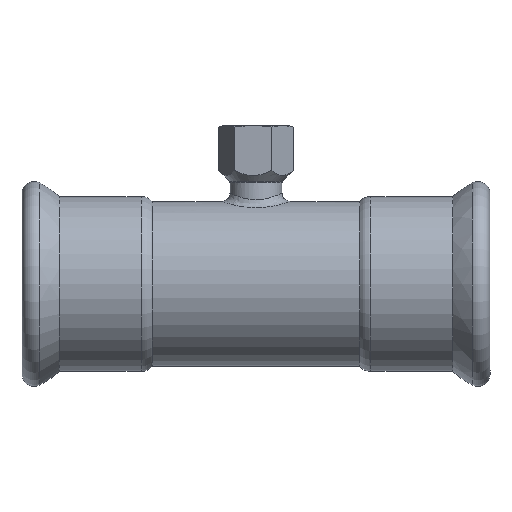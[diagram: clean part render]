
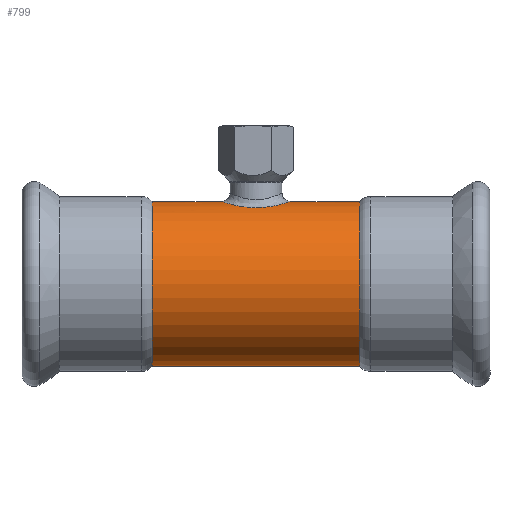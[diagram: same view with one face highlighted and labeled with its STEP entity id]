
A CAD part, front view. The second image highlights one B-rep face of the part: STEP entity #799.
In plain terms, the highlighted cylindrical face has radius 38.05 mm (diameter 76.1 mm), a full revolution.
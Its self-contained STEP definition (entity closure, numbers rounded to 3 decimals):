
#16=B_SPLINE_CURVE_WITH_KNOTS($,3,(#1725,#1726,#1727,#1728,#1729,#1730,
#1731,#1732,#1733,#1734,#1735,#1736,#1737,#1738,#1739,#1740,#1741,#1742,
#1743,#1744,#1745,#1746,#1747),.UNSPECIFIED.,.T.,.F.,(4,3,1,1,1,1,1,1,1,
1,1,1,1,1,1,1,1,1,4),(-7.286,-7.286,-6.766,
-6.246,-5.725,-5.205,-4.684,
-4.164,-3.817,-3.47,-3.123,
-2.776,-2.429,-2.082,-1.561,-1.041,
-0.52,-0.26,0.),
 .UNSPECIFIED.);
#123=FACE_BOUND($,#277,.T.);
#124=FACE_BOUND($,#278,.T.);
#160=CYLINDRICAL_SURFACE($,#902,38.05);
#203=FACE_OUTER_BOUND($,#276,.T.);
#276=EDGE_LOOP($,(#714));
#277=EDGE_LOOP($,(#715));
#278=EDGE_LOOP($,(#716));
#383=CIRCLE($,#903,38.05);
#384=CIRCLE($,#904,38.05);
#455=VERTEX_POINT($,#1699);
#457=VERTEX_POINT($,#1750);
#458=VERTEX_POINT($,#1752);
#552=EDGE_CURVE($,#455,#455,#16,.T.);
#553=EDGE_CURVE($,#457,#457,#383,.T.);
#554=EDGE_CURVE($,#458,#458,#384,.T.);
#714=ORIENTED_EDGE($,*,*,#553,.F.);
#715=ORIENTED_EDGE($,*,*,#554,.T.);
#716=ORIENTED_EDGE($,*,*,#552,.F.);
#799=ADVANCED_FACE($,(#203,#123,#124),#160,.T.);
#902=AXIS2_PLACEMENT_3D($,#1749,#1110,#1111);
#903=AXIS2_PLACEMENT_3D($,#1751,#1112,#1113);
#904=AXIS2_PLACEMENT_3D($,#1753,#1114,#1115);
#1110=DIRECTION('center_axis',(1.,0.,0.));
#1111=DIRECTION('ref_axis',(0.,1.,0.));
#1112=DIRECTION('center_axis',(1.,0.,0.));
#1113=DIRECTION('ref_axis',(0.,1.,0.));
#1114=DIRECTION('center_axis',(1.,0.,0.));
#1115=DIRECTION('ref_axis',(0.,1.,0.));
#1699=CARTESIAN_POINT('',(-108.,-14.478,35.188));
#1725=CARTESIAN_POINT('Ctrl Pts',(-108.,-14.479,35.187));
#1726=CARTESIAN_POINT('Ctrl Pts',(-108.,-14.479,35.187));
#1727=CARTESIAN_POINT('Ctrl Pts',(-108.,-14.479,35.187));
#1728=CARTESIAN_POINT('Ctrl Pts',(-107.999,-14.479,35.187));
#1729=CARTESIAN_POINT('Ctrl Pts',(-105.597,-14.48,35.187));
#1730=CARTESIAN_POINT('Ctrl Pts',(-100.766,-13.458,35.63));
#1731=CARTESIAN_POINT('Ctrl Pts',(-95.108,-9.365,37.009));
#1732=CARTESIAN_POINT('Ctrl Pts',(-91.87,-3.387,38.091));
#1733=CARTESIAN_POINT('Ctrl Pts',(-91.867,3.377,38.095));
#1734=CARTESIAN_POINT('Ctrl Pts',(-95.088,9.344,37.01));
#1735=CARTESIAN_POINT('Ctrl Pts',(-100.142,13.004,35.786));
#1736=CARTESIAN_POINT('Ctrl Pts',(-105.539,14.53,35.168));
#1737=CARTESIAN_POINT('Ctrl Pts',(-110.449,14.535,35.165));
#1738=CARTESIAN_POINT('Ctrl Pts',(-115.08,13.223,35.697));
#1739=CARTESIAN_POINT('Ctrl Pts',(-119.048,10.768,36.538));
#1740=CARTESIAN_POINT('Ctrl Pts',(-122.036,7.384,37.391));
#1741=CARTESIAN_POINT('Ctrl Pts',(-124.134,2.629,38.092));
#1742=CARTESIAN_POINT('Ctrl Pts',(-124.127,-3.381,38.092));
#1743=CARTESIAN_POINT('Ctrl Pts',(-120.906,-9.357,37.009));
#1744=CARTESIAN_POINT('Ctrl Pts',(-116.167,-12.775,35.862));
#1745=CARTESIAN_POINT('Ctrl Pts',(-111.632,-14.227,35.293));
#1746=CARTESIAN_POINT('Ctrl Pts',(-109.201,-14.479,35.187));
#1747=CARTESIAN_POINT('Ctrl Pts',(-108.,-14.479,35.187));
#1749=CARTESIAN_POINT('Origin',(-67.344,0.,0.));
#1750=CARTESIAN_POINT('',(-60.187,38.05,0.));
#1751=CARTESIAN_POINT('Origin',(-60.187,0.,0.));
#1752=CARTESIAN_POINT('',(-155.813,38.05,0.));
#1753=CARTESIAN_POINT('Origin',(-155.813,0.,0.));
